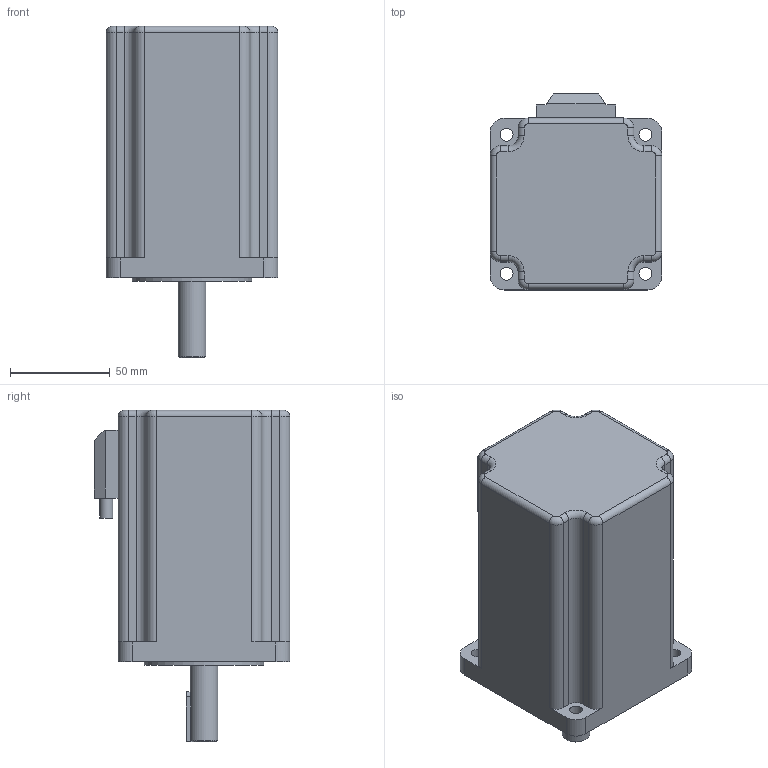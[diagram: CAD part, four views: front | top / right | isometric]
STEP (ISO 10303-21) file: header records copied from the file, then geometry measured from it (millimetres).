
FILE_DESCRIPTION(('STEP AP214'), '1');
FILE_NAME('Äâèãàòåëü øàãîâûé ñ ýíêîäåðîì CS-M23480', '', ('UNSPECIFIED'), ('UNSPECIFIED'), 'C3D Converter', 'C3D Toolkit', '');
FILE_SCHEMA(('AUTOMOTIVE_DESIGN { 1 0 10303 214 3 1 1}'));
Length unit declared in the file: millimetre
Bounding box: 86 x 98 x 166 mm (x, y, z)
Volume: 860705.2 mm3; surface area: 59190.9 mm2
Topology: 1 solids, 1 shells, 88 faces, 217 edges, 136 vertices
Faces by surface type: cylinder 38, plane 35, torus 12, cone 3
Full cylindrical faces by diameter (mm): 4.134 x1, 6.5 x6, 14 x1, 60 x1
Entity records: 3402 total; most frequent: CARTESIAN_POINT 543, DIRECTION 470, ORIENTED_EDGE 410, EDGE_CURVE 205, AXIS2_PLACEMENT_3D 179, VERTEX_POINT 135, EDGE_LOOP 112, LINE 112
